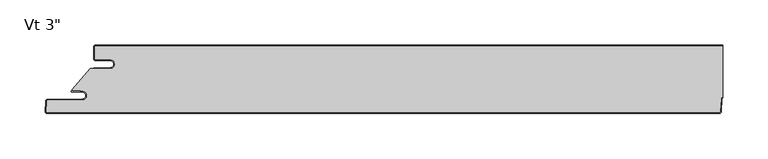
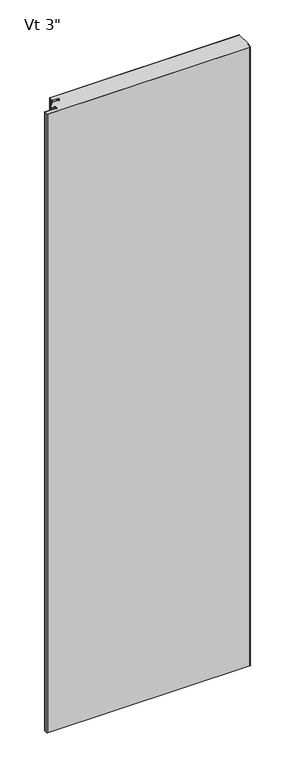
"""IFC4 building model written with IfcOpenShell, lengths in millimetres: plate geometry."""

from ifc_helpers import new_model, si_unit, point, frame_2d, origin, origin_with_axes, place, context, project, spatial, polyline, circle_curve, trimmed, segment, composite_curve, outline, extrude, source, transform, mapped, element, save


def plate_146f869e(model_context):
    return source(origin(), model_context, "Body", "SweptSolid", [
        extrude(outline(composite_curve([segment(polyline([(-329.9499998, -16.4625), (-345.8249998, -16.4625)]), True, "CONTINUOUS"), segment(trimmed(circle_curve(frame_2d((-345.8249998, -15.08125)), 1.38125), [point((-345.8249998, -16.4625))], [point((-347.2062498, -15.08125))], False, "CARTESIAN"), True, "CONTINUOUS"), segment(polyline([(-347.2062498, -15.08125), (-347.2062498, -2.38125)]), True, "CONTINUOUS"), segment(trimmed(circle_curve(frame_2d((-345.8249998, -2.38125)), 1.38125), [point((-347.2062498, -2.38125))], [point((-345.8249998, -1.0))], False, "CARTESIAN"), True, "CONTINUOUS"), segment(polyline([(-345.8249998, -1.0), (348.9999998, -1.0), (348.9999998, -57.791556)]), True, "CONTINUOUS"), segment(trimmed(circle_curve(frame_2d((349.5261348, -60.325)), 2.5875), [point((348.9999998, -57.791556))], [point((346.9421809, -60.1895807))], True, "CARTESIAN"), True, "CONTINUOUS"), segment(polyline([(346.9421809, -60.1895807), (346.2241179, -73.891039)]), True, "CONTINUOUS"), segment(trimmed(circle_curve(frame_2d((344.8447608, -73.81875)), 1.38125), [point((346.2241179, -73.891039))], [point((344.8447608, -75.2))], False, "CARTESIAN"), True, "CONTINUOUS"), segment(polyline([(344.8447608, -75.2), (-399.6862034, -75.2)]), True, "CONTINUOUS"), segment(trimmed(circle_curve(frame_2d((-399.6862034, -73.81875)), 1.38125), [point((-399.6862034, -75.2))], [point((-401.0655604, -73.746461))], False, "CARTESIAN"), True, "CONTINUOUS"), segment(polyline([(-401.0655604, -73.746461), (-400.483179, -62.633961)]), True, "CONTINUOUS"), segment(trimmed(circle_curve(frame_2d((-399.1038219, -62.70625)), 1.38125), [point((-400.483179, -62.633961))], [point((-399.1038219, -61.325))], False, "CARTESIAN"), True, "CONTINUOUS"), segment(polyline([(-399.1038219, -61.325), (-360.9205173, -61.325)]), True, "CONTINUOUS"), segment(trimmed(circle_curve(frame_2d((-360.9205173, -56.35625)), 4.96875), [point((-360.9205173, -61.325))], [point((-360.9205173, -51.3875))], True, "CARTESIAN"), True, "CONTINUOUS"), segment(polyline([(-360.9205173, -51.3875), (-362.5080173, -51.59375), (-362.5080173, -50.8), (-372.0187498, -50.8), (-372.0187498, -49.2157227), (-352.1323421, -26.4), (-329.9499998, -26.4)]), True, "CONTINUOUS"), segment(trimmed(circle_curve(frame_2d((-329.9499998, -21.43125)), 4.96875), [point((-329.9499998, -26.4))], [point((-329.9499998, -16.4625))], True, "CARTESIAN"), True, "CONTINUOUS")], self_intersect=False)), origin_with_axes(), (0.0, 0.0, 1.0), 2400.0),
        extrude(outline(composite_curve([segment(polyline([(-348.2062498, -25.4), (-329.9499998, -25.4)]), True, "CONTINUOUS"), segment(trimmed(circle_curve(frame_2d((-329.9499998, -21.43125)), 3.96875), [point((-329.9499998, -25.4))], [point((-329.9499998, -17.4625))], True, "CARTESIAN"), True, "CONTINUOUS"), segment(polyline([(-329.9499998, -17.4625), (-345.8249998, -17.4625)]), True, "CONTINUOUS"), segment(trimmed(circle_curve(frame_2d((-345.8249998, -15.08125)), 2.38125), [point((-345.8249998, -17.4625))], [point((-348.2062498, -15.08125))], False, "CARTESIAN"), True, "CONTINUOUS"), segment(polyline([(-348.2062498, -15.08125), (-348.2062498, -2.38125)]), True, "CONTINUOUS"), segment(trimmed(circle_curve(frame_2d((-345.8249998, -2.38125)), 2.38125), [point((-348.2062498, -2.38125))], [point((-345.8249998, 0.0))], False, "CARTESIAN"), True, "CONTINUOUS"), segment(polyline([(-345.8249998, 0.0), (348.9999998, 0.0), (348.9999998, -1.0), (-345.8249998, -1.0)]), True, "CONTINUOUS"), segment(trimmed(circle_curve(frame_2d((-345.8249998, -2.38125)), 1.38125), [point((-345.8249998, -1.0))], [point((-347.2062498, -2.38125))], True, "CARTESIAN"), True, "CONTINUOUS"), segment(polyline([(-347.2062498, -2.38125), (-347.2062498, -15.08125)]), True, "CONTINUOUS"), segment(trimmed(circle_curve(frame_2d((-345.8249998, -15.08125)), 1.38125), [point((-347.2062498, -15.08125))], [point((-345.8249998, -16.4625))], True, "CARTESIAN"), True, "CONTINUOUS"), segment(polyline([(-345.8249998, -16.4625), (-329.9499998, -16.4625)]), True, "CONTINUOUS"), segment(trimmed(circle_curve(frame_2d((-329.9499998, -21.43125)), 4.96875), [point((-329.9499998, -16.4625))], [point((-329.9499998, -26.4))], False, "CARTESIAN"), True, "CONTINUOUS"), segment(polyline([(-329.9499998, -26.4), (-348.2062498, -26.4), (-348.2062498, -25.4)]), True, "CONTINUOUS")], self_intersect=False)), origin_with_axes(), (0.0, 0.0, 1.0), 2400.0),
        extrude(outline(composite_curve([segment(polyline([(-372.2314548, -50.8), (-362.5080173, -50.8), (-362.5080173, -51.59375), (-360.9205173, -51.3875)]), True, "CONTINUOUS"), segment(trimmed(circle_curve(frame_2d((-360.9205173, -56.35625)), 4.96875), [point((-360.9205173, -51.3875))], [point((-360.9205173, -61.325))], False, "CARTESIAN"), True, "CONTINUOUS"), segment(polyline([(-360.9205173, -61.325), (-399.1038219, -61.325)]), True, "CONTINUOUS"), segment(trimmed(circle_curve(frame_2d((-399.1038219, -62.70625)), 1.38125), [point((-399.1038219, -61.325))], [point((-400.483179, -62.633961))], True, "CARTESIAN"), True, "CONTINUOUS"), segment(polyline([(-400.483179, -62.633961), (-401.0655604, -73.746461)]), True, "CONTINUOUS"), segment(trimmed(circle_curve(frame_2d((-399.6862034, -73.81875)), 1.38125), [point((-401.0655604, -73.746461))], [point((-399.6862034, -75.2))], True, "CARTESIAN"), True, "CONTINUOUS"), segment(polyline([(-399.6862034, -75.2), (344.8447608, -75.2)]), True, "CONTINUOUS"), segment(trimmed(circle_curve(frame_2d((344.8447608, -73.81875)), 1.38125), [point((344.8447608, -75.2))], [point((346.2241179, -73.891039))], True, "CARTESIAN"), True, "CONTINUOUS"), segment(polyline([(346.2241179, -73.891039), (346.9421809, -60.1895807)]), True, "CONTINUOUS"), segment(trimmed(circle_curve(frame_2d((349.5261348, -60.325)), 2.5875), [point((346.9421809, -60.1895807))], [point((348.9999998, -57.791556))], False, "CARTESIAN"), True, "CONTINUOUS"), segment(polyline([(348.9999998, -57.791556), (348.9999998, -58.8272222)]), True, "CONTINUOUS"), segment(trimmed(circle_curve(frame_2d((349.5261348, -60.325)), 1.5875), [point((348.9999998, -58.8272222))], [point((347.9408104, -60.2419167))], True, "CARTESIAN"), True, "CONTINUOUS"), segment(polyline([(347.9408104, -60.2419167), (347.2227474, -73.943375)]), True, "CONTINUOUS"), segment(trimmed(circle_curve(frame_2d((344.8447608, -73.81875)), 2.38125), [point((347.2227474, -73.943375))], [point((344.8447608, -76.2))], False, "CARTESIAN"), True, "CONTINUOUS"), segment(polyline([(344.8447608, -76.2), (-399.6862034, -76.2)]), True, "CONTINUOUS"), segment(trimmed(circle_curve(frame_2d((-399.6862034, -73.81875)), 2.38125), [point((-399.6862034, -76.2))], [point((-402.0641899, -73.694125))], False, "CARTESIAN"), True, "CONTINUOUS"), segment(polyline([(-402.0641899, -73.694125), (-401.4818085, -62.581625)]), True, "CONTINUOUS"), segment(trimmed(circle_curve(frame_2d((-399.1038219, -62.70625)), 2.38125), [point((-401.4818085, -62.581625))], [point((-399.1038219, -60.325))], False, "CARTESIAN"), True, "CONTINUOUS"), segment(polyline([(-399.1038219, -60.325), (-360.9205173, -60.325)]), True, "CONTINUOUS"), segment(trimmed(circle_curve(frame_2d((-360.9205173, -56.35625)), 3.96875), [point((-360.9205173, -60.325))], [point((-360.9205173, -52.3875))], True, "CARTESIAN"), True, "CONTINUOUS"), segment(polyline([(-360.9205173, -52.3875), (-372.2314548, -52.3875)]), True, "CONTINUOUS"), segment(trimmed(circle_curve(frame_2d((-372.2314548, -51.59375)), 0.79375), [point((-372.2314548, -52.3875))], [point((-372.2314548, -50.8))], False, "CARTESIAN"), True, "CONTINUOUS")], self_intersect=False)), origin_with_axes(), (0.0, 0.0, 1.0), 2400.0),
    ])


if __name__ == "__main__":
    model = new_model("IFC4")
    model_context = context("Model", 3, world=origin())
    ifc_project = project(units=[si_unit("LENGTHUNIT", "METRE", prefix="MILLI")], contexts=[model_context])
    site = spatial("IfcSite", under=ifc_project)
    building = spatial("IfcBuilding", under=site)
    placement = place(None, origin())
    plate_shape = plate_146f869e(model_context)
    element("IfcPlate", 1, ObjectType="KIP-30-DWHR-R19-CP-Vt-F : Vt 3\"", at=placement, inside=building, context=model_context, shape_type="MappedRepresentation", body=[
        mapped(plate_shape, transform((0.0, 0.0, 0.0), x_axis=(1.0, 0.0, 0.0), y_axis=(0.0, 1.0, 0.0), z_axis=(0.0, 0.0, 1.0))),
    ])
    save(model, "model.ifc")
